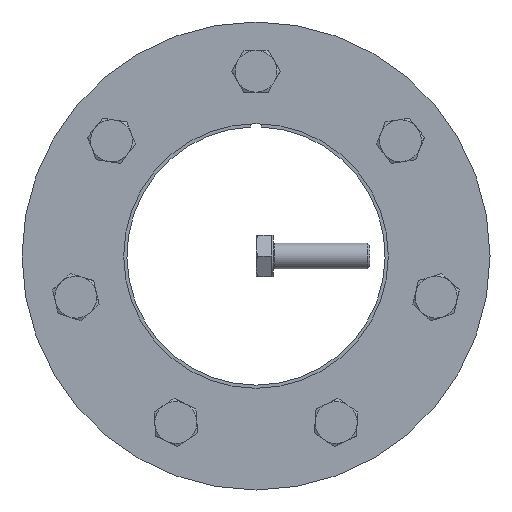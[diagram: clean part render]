
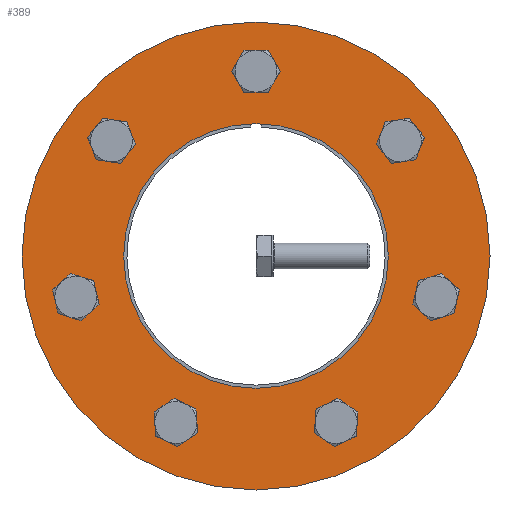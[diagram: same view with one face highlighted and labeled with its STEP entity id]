
A CAD part, front view. The second image highlights one B-rep face of the part: STEP entity #389.
In plain terms, the highlighted planar face has unit normal (0, -1, 0).
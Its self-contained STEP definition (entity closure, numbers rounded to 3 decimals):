
#389 = ADVANCED_FACE( '', ( #686, #687, #688, #689, #690, #691, #692, #693, #694 ), #695, .F. );
#686 = FACE_BOUND( '', #884, .T. );
#687 = FACE_BOUND( '', #885, .T. );
#688 = FACE_BOUND( '', #886, .T. );
#689 = FACE_OUTER_BOUND( '', #887, .T. );
#690 = FACE_BOUND( '', #888, .T. );
#691 = FACE_BOUND( '', #889, .T. );
#692 = FACE_BOUND( '', #890, .T. );
#693 = FACE_BOUND( '', #891, .T. );
#694 = FACE_BOUND( '', #892, .T. );
#695 = PLANE( '', #893 );
#884 = EDGE_LOOP( '', ( #1225 ) );
#885 = EDGE_LOOP( '', ( #1226 ) );
#886 = EDGE_LOOP( '', ( #1227 ) );
#887 = EDGE_LOOP( '', ( #1228 ) );
#888 = EDGE_LOOP( '', ( #1229 ) );
#889 = EDGE_LOOP( '', ( #1230 ) );
#890 = EDGE_LOOP( '', ( #1231 ) );
#891 = EDGE_LOOP( '', ( #1232 ) );
#892 = EDGE_LOOP( '', ( #1233 ) );
#893 = AXIS2_PLACEMENT_3D( '', #1234, #1235, #1236 );
#1225 = ORIENTED_EDGE( '', *, *, #1478, .T. );
#1226 = ORIENTED_EDGE( '', *, *, #1484, .T. );
#1227 = ORIENTED_EDGE( '', *, *, #1490, .T. );
#1228 = ORIENTED_EDGE( '', *, *, #1434, .T. );
#1229 = ORIENTED_EDGE( '', *, *, #1501, .F. );
#1230 = ORIENTED_EDGE( '', *, *, #1493, .T. );
#1231 = ORIENTED_EDGE( '', *, *, #1487, .T. );
#1232 = ORIENTED_EDGE( '', *, *, #1481, .T. );
#1233 = ORIENTED_EDGE( '', *, *, #1476, .T. );
#1234 = CARTESIAN_POINT( '', ( 0., -16.25, 72.5 ) );
#1235 = DIRECTION( '', ( 0., 1., 0. ) );
#1236 = DIRECTION( '', ( 0., 0., 1. ) );
#1434 = EDGE_CURVE( '', #1581, #1581, #1582, .T. );
#1476 = EDGE_CURVE( '', #1657, #1657, #1658, .T. );
#1478 = EDGE_CURVE( '', #1661, #1661, #1662, .T. );
#1481 = EDGE_CURVE( '', #1667, #1667, #1668, .T. );
#1484 = EDGE_CURVE( '', #1673, #1673, #1674, .T. );
#1487 = EDGE_CURVE( '', #1679, #1679, #1680, .T. );
#1490 = EDGE_CURVE( '', #1685, #1685, #1686, .T. );
#1493 = EDGE_CURVE( '', #1691, #1691, #1692, .T. );
#1501 = EDGE_CURVE( '', #1703, #1703, #1704, .T. );
#1581 = VERTEX_POINT( '', #1716 );
#1582 = CIRCLE( '', #1717, 72.5 );
#1657 = VERTEX_POINT( '', #1826 );
#1658 = CIRCLE( '', #1827, 4. );
#1661 = VERTEX_POINT( '', #1830 );
#1662 = CIRCLE( '', #1831, 4. );
#1667 = VERTEX_POINT( '', #1836 );
#1668 = CIRCLE( '', #1837, 4. );
#1673 = VERTEX_POINT( '', #1842 );
#1674 = CIRCLE( '', #1843, 4. );
#1679 = VERTEX_POINT( '', #1848 );
#1680 = CIRCLE( '', #1849, 4. );
#1685 = VERTEX_POINT( '', #1854 );
#1686 = CIRCLE( '', #1855, 4. );
#1691 = VERTEX_POINT( '', #1860 );
#1692 = CIRCLE( '', #1861, 4. );
#1703 = VERTEX_POINT( '', #1872 );
#1704 = CIRCLE( '', #1873, 41. );
#1716 = CARTESIAN_POINT( '', ( 0., -16.25, -72.5 ) );
#1717 = AXIS2_PLACEMENT_3D( '', #1890, #1891, #1892 );
#1826 = CARTESIAN_POINT( '', ( -42.266, -16.25, 38.822 ) );
#1827 = AXIS2_PLACEMENT_3D( '', #1960, #1961, #1962 );
#1830 = CARTESIAN_POINT( '', ( -56.705, -16.25, -8.84 ) );
#1831 = AXIS2_PLACEMENT_3D( '', #1966, #1967, #1968 );
#1836 = CARTESIAN_POINT( '', ( -28.444, -16.25, -49.845 ) );
#1837 = AXIS2_PLACEMENT_3D( '', #1975, #1976, #1977 );
#1842 = CARTESIAN_POINT( '', ( 21.236, -16.25, -53.316 ) );
#1843 = AXIS2_PLACEMENT_3D( '', #1984, #1985, #1986 );
#1848 = CARTESIAN_POINT( '', ( 54.925, -16.25, -16.639 ) );
#1849 = AXIS2_PLACEMENT_3D( '', #1993, #1994, #1995 );
#1854 = CARTESIAN_POINT( '', ( 47.254, -16.25, 32.567 ) );
#1855 = AXIS2_PLACEMENT_3D( '', #2002, #2003, #2004 );
#1860 = CARTESIAN_POINT( '', ( 4., -16.25, 57.25 ) );
#1861 = AXIS2_PLACEMENT_3D( '', #2011, #2012, #2013 );
#1872 = CARTESIAN_POINT( '', ( 0., -16.25, -41. ) );
#1873 = AXIS2_PLACEMENT_3D( '', #2035, #2036, #2037 );
#1890 = CARTESIAN_POINT( '', ( 0., -16.25, 0. ) );
#1891 = DIRECTION( '', ( 0., -1., 0. ) );
#1892 = DIRECTION( '', ( 0., 0., -1. ) );
#1960 = CARTESIAN_POINT( '', ( -44.76, -16.25, 35.695 ) );
#1961 = DIRECTION( '', ( 0., 1., 0. ) );
#1962 = DIRECTION( '', ( 0.623, 0., 0.782 ) );
#1966 = CARTESIAN_POINT( '', ( -55.815, -16.25, -12.739 ) );
#1967 = DIRECTION( '', ( 0., 1., 0. ) );
#1968 = DIRECTION( '', ( -0.223, 0., 0.975 ) );
#1975 = CARTESIAN_POINT( '', ( -24.84, -16.25, -51.58 ) );
#1976 = DIRECTION( '', ( 0., 1., 0. ) );
#1977 = DIRECTION( '', ( -0.901, 0., 0.434 ) );
#1984 = CARTESIAN_POINT( '', ( 24.84, -16.25, -51.58 ) );
#1985 = DIRECTION( '', ( 0., 1., 0. ) );
#1986 = DIRECTION( '', ( -0.901, 0., -0.434 ) );
#1993 = CARTESIAN_POINT( '', ( 55.815, -16.25, -12.739 ) );
#1994 = DIRECTION( '', ( 0., 1., 0. ) );
#1995 = DIRECTION( '', ( -0.223, 0., -0.975 ) );
#2002 = CARTESIAN_POINT( '', ( 44.76, -16.25, 35.695 ) );
#2003 = DIRECTION( '', ( 0., 1., 0. ) );
#2004 = DIRECTION( '', ( 0.623, 0., -0.782 ) );
#2011 = CARTESIAN_POINT( '', ( 0., -16.25, 57.25 ) );
#2012 = DIRECTION( '', ( 0., 1., 0. ) );
#2013 = DIRECTION( '', ( 1., 0., 0. ) );
#2035 = CARTESIAN_POINT( '', ( 0., -16.25, 0. ) );
#2036 = DIRECTION( '', ( 0., -1., 0. ) );
#2037 = DIRECTION( '', ( 0., 0., -1. ) );
